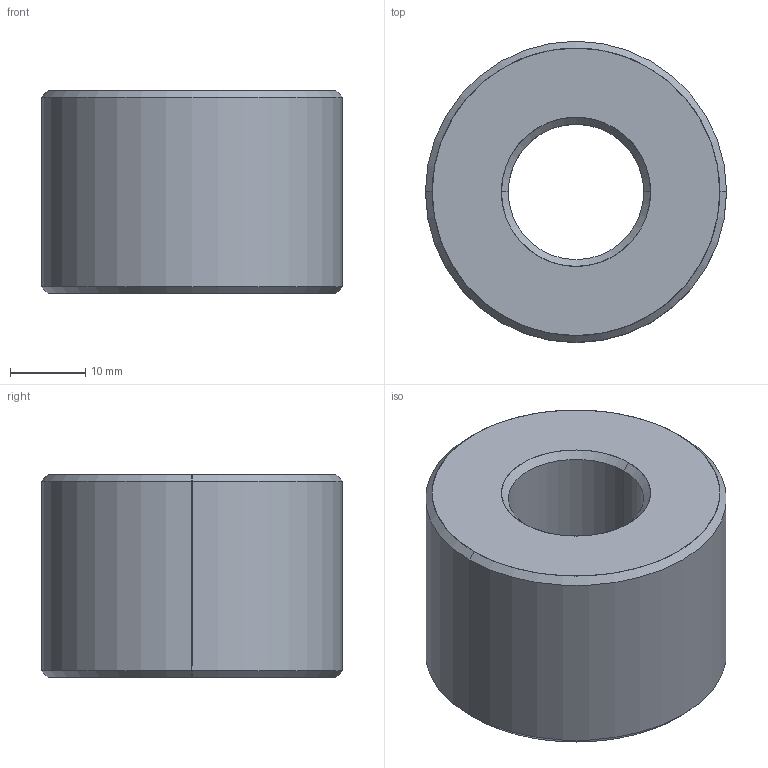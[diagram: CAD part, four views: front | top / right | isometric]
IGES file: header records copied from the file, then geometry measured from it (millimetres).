
Start section: SolidWorks IGES file using analytic representation for surfaces
Global section: file name: C:\Users\ianosborn\Desktop\L1339_v2\L1339_v2_20241024_IGES\L1339.R18-08.igs; native system: SolidWorks 2019; preprocessor: SolidWorks 2019; author: IanOsborn; date: 241024.150932; units: millimetre
Bounding box: 40 x 40 x 27 mm (x, y, z)
Surface area: 6731.9 mm2 (no closed solid volume)
Topology: 0 solids, 0 shells, 14 faces, 240 edges, 240 vertices
Faces by surface type: revolution 12, bspline 2
